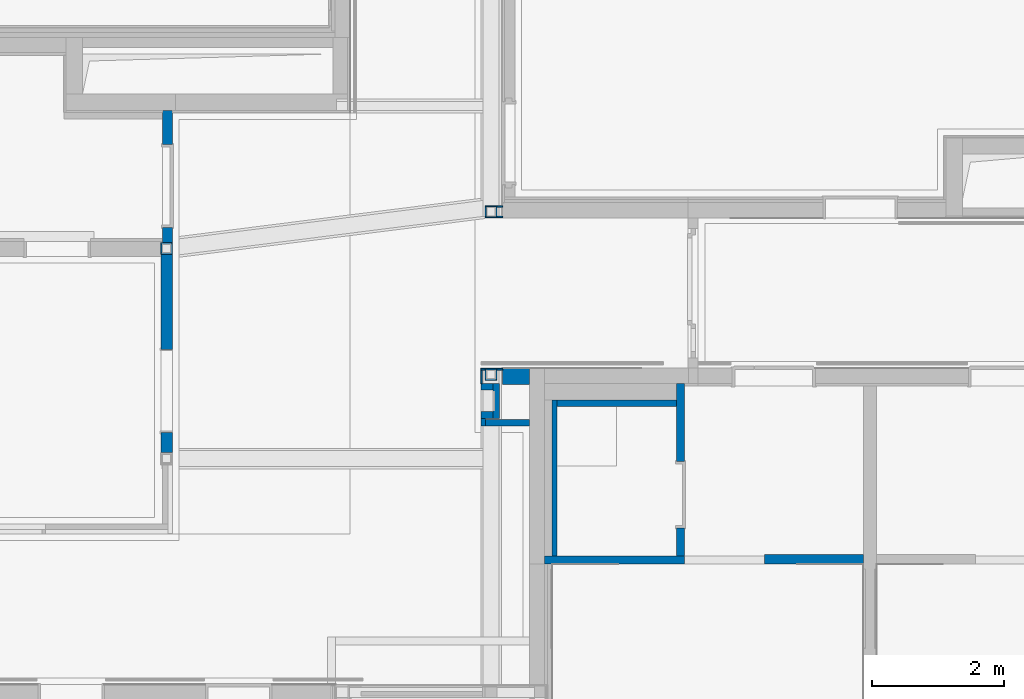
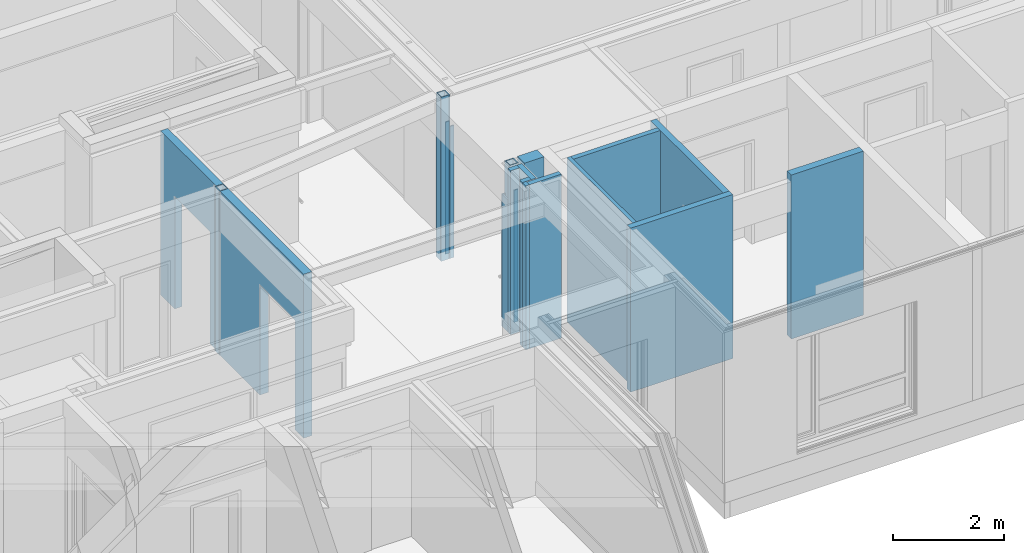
# One storey, part 44 of 207: 30 walls, 3 openings.
"""IFC4 building model written with IfcOpenShell, lengths in metres."""

from ifc_helpers import new_model, entity, si_unit, converted_unit, derived_unit, frame, frame_2d, origin, origin_with_axes, place, context, subcontext, project, spatial, polyline, rectangle, outline, extrude, material, element, save


model = new_model("IFC4")

# Units and contexts
model_context = context("Model", 3, precision=1e-05, world=origin())
body_context = subcontext(model_context, "Body", "Model", "MODEL_VIEW")
ifc_project = project(units=[si_unit("LENGTHUNIT", "METRE"), si_unit("AREAUNIT", "SQUARE_METRE"), si_unit("VOLUMEUNIT", "CUBIC_METRE"), si_unit("MASSUNIT", "GRAM", prefix="KILO"), converted_unit("PLANEANGLEUNIT", "DEGREE", entity("IfcPlaneAngleMeasure", 0.0174532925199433), si_unit("PLANEANGLEUNIT", "RADIAN"), dimensions=[0, 0, 0, 0, 0, 0, 0]), derived_unit("THERMALTRANSMITTANCEUNIT", [(si_unit("POWERUNIT", "WATT"), 1), (si_unit("THERMODYNAMICTEMPERATUREUNIT", "KELVIN"), -1), (si_unit("LENGTHUNIT", "METRE"), -2)]), derived_unit("VOLUMETRICFLOWRATEUNIT", [(si_unit("LENGTHUNIT", "METRE"), 3), (converted_unit("TIMEUNIT", "hour", entity("IfcTimeMeasure", 3600.0), si_unit("TIMEUNIT", "SECOND"), dimensions=[0, 0, 1, 0, 0, 0, 0]), -1), (si_unit("LENGTHUNIT", "METRE"), -1)])], contexts=[model_context])

# Site, building, storey
site_placement = place(None, origin())
site = spatial("IfcSite", under=ifc_project, at=site_placement, Name="Psychiatrie Neubau Wunstorf", CompositionType="ELEMENT")
building_placement = place(site_placement, origin())
building = spatial("IfcBuilding", under=site, at=building_placement, Name="Neubau H2 Stationsgebäude", CompositionType="ELEMENT")
storey_placement = place(building_placement, frame((0.0, 0.0, -0.2)))
storey = spatial("IfcBuildingStorey", under=building, at=storey_placement, Name="H2 Ebene 0", CompositionType="ELEMENT", Elevation=-0.2)

# Walls
ifc_material_1 = material(Name="WI-HW 60")
wall_1_placement = place(storey_placement, frame((70.8355, 5.3325, 0.0), z_axis=(0.0, 0.0, 1.0), x_axis=(-1.0, 0.0, 0.0)))
element("IfcWall", 1, at=wall_1_placement, inside=storey, material=ifc_material_1, context=body_context, shape_type="SweptSolid", body=[
    extrude(rectangle(XDim=0.405499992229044, YDim=0.25, at=frame_2d((0.202749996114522, 0.125), x_axis=(1.0, 0.0))), origin_with_axes(), (0.0, 0.0, 1.0), 3.6),
])
ifc_material_2 = material(Name="WI-LB")
wall_2_placement = place(storey_placement, frame((75.9, 2.5105, 0.0), z_axis=(0.0, 0.0, 1.0), x_axis=(-1.0, 0.0, 0.0)))
element("IfcWall", 2, at=wall_2_placement, inside=storey, material=ifc_material_2, context=body_context, shape_type="SweptSolid", body=[
    extrude(rectangle(XDim=1.5, YDim=0.15, at=frame_2d((0.75, 0.075), x_axis=(1.0, 0.0))), origin_with_axes(), (0.0, 0.0, 1.0), 3.6),
])

# Wall, opening
ifc_material_3 = material(Name="WI-LB")
wall_3_placement = place(storey_placement, frame((65.4249963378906, 4.04999694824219, 0.0), z_axis=(0.0, 0.0, 1.0), x_axis=(0.0, 1.0, 0.0)))
wall_3 = element("IfcWall", 3, at=wall_3_placement, inside=storey, material=ifc_material_3, context=body_context, shape_type="SweptSolid", body=[
    extrude(rectangle(XDim=3.00650268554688, YDim=0.175, at=frame_2d((1.50325134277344, 0.0875), x_axis=(1.0, 0.0))), origin_with_axes(), (0.0, 0.0, 1.0), 3.6),
])
opening_1_placement = place(wall_3_placement, frame((0.307502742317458, 0.0, 0.0), z_axis=(0.0, 1.0, 0.0), x_axis=(0.0, 0.0, 1.0)))
element("IfcOpeningElement", 4, at=opening_1_placement, cuts=wall_3, Name="Türöffnung", ObjectType="Opening", context=body_context, shape_type="SweptSolid", body=[
    extrude(outline(polyline([(2.41, 1.26), (2.41, 0.0), (0.0, 0.0), (0.0, 1.26), (2.41, 1.26)])), origin_with_axes(), (0.0, 0.0, 1.0), 0.175),
])

ifc_material_4 = material(Name="WI-LB")
wall_4_placement = place(storey_placement, frame((65.4249963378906, 7.23649963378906, 0.0), z_axis=(0.0, 0.0, 1.0), x_axis=(0.0, 1.0, 0.0)))
wall_4 = element("IfcWall", 5, at=wall_4_placement, inside=storey, material=ifc_material_4, context=body_context, shape_type="SweptSolid", body=[
    extrude(rectangle(XDim=1.9985000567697, YDim=0.15, at=frame_2d((0.999250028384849, 0.075), x_axis=(1.0, 0.0))), origin_with_axes(), (0.0, 0.0, 1.0), 3.6),
])
opening_2_placement = place(wall_4_placement, frame((1.4851960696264, 0.15, 0.0), z_axis=(0.0, -1.0, 0.0), x_axis=(0.0, 0.0, 1.0)))
element("IfcOpeningElement", 6, at=opening_2_placement, cuts=wall_4, Name="Türöffnung", ObjectType="Opening", context=body_context, shape_type="SweptSolid", body=[
    extrude(outline(polyline([(2.46, 1.26), (2.46, 0.0), (0.0, 0.0), (0.0, 1.26), (2.46, 1.26)])), origin_with_axes(), (0.0, 0.0, 1.0), 0.15),
])

ifc_material_5 = material(Name="WI-LB")
wall_5_placement = place(storey_placement, frame((73.1875, 2.4855, 0.0), z_axis=(0.0, 0.0, 1.0), x_axis=(0.0, 1.0, 0.0)))
wall_5 = element("IfcWall", 7, at=wall_5_placement, inside=storey, material=ifc_material_5, context=body_context, shape_type="SweptSolid", body=[
    extrude(rectangle(XDim=2.615, YDim=0.125, at=frame_2d((1.3075, 0.0625), x_axis=(1.0, 0.0))), origin_with_axes(), (0.0, 0.0, 1.0), 3.6),
])
opening_3_placement = place(wall_5_placement, frame((1.435, 0.125, 0.0), z_axis=(0.0, -1.0, 0.0), x_axis=(0.0, 0.0, 1.0)))
element("IfcOpeningElement", 8, at=opening_3_placement, cuts=wall_5, Name="Türöffnung", ObjectType="Opening", context=body_context, shape_type="SweptSolid", body=[
    extrude(outline(polyline([(2.46, 1.01), (2.46, 0.0), (0.0, 0.0), (0.0, 1.01), (2.46, 1.01)])), origin_with_axes(), (0.0, 0.0, 1.0), 0.125),
])

# Walls
ifc_material_6 = material(Name="WI-VS")
wall_6_placement = place(storey_placement, frame((71.1825, 4.8505, 0.0), z_axis=(0.0, 0.0, 1.0), x_axis=(0.0, -1.0, 0.0)))
element("IfcWall", 9, at=wall_6_placement, inside=storey, material=ifc_material_6, context=body_context, shape_type="SweptSolid", body=[
    extrude(rectangle(XDim=2.365, YDim=0.075, at=frame_2d((1.1825, 0.0375), x_axis=(1.0, 0.0))), origin_with_axes(), (0.0, 0.0, 1.0), 3.6),
])
ifc_material_7 = material(Name="WI-LB")
wall_7_placement = place(storey_placement, frame((73.1875, 2.4855, 0.0), z_axis=(0.0, 0.0, 1.0), x_axis=(-1.0, 0.0, 0.0)))
element("IfcWall", 10, at=wall_7_placement, inside=storey, material=ifc_material_7, context=body_context, shape_type="SweptSolid", body=[
    extrude(rectangle(XDim=2.12, YDim=0.125, at=frame_2d((1.06, 0.0625), x_axis=(1.0, 0.0))), origin_with_axes(), (0.0, 0.0, 1.0), 3.6),
])
ifc_material_8 = material(Name="WI-LB")
wall_8_placement = place(storey_placement, frame((70.3449950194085, 5.3025, 0.0)))
element("IfcWall", 11, at=wall_8_placement, inside=storey, material=ifc_material_8, context=body_context, shape_type="SweptSolid", body=[
    extrude(rectangle(XDim=0.0849950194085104, YDim=0.025, at=frame_2d((0.0424975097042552, 0.0125), x_axis=(1.0, 0.0))), origin_with_axes(), (0.0, 0.0, 1.0), 2.9),
])
ifc_material_9 = material(Name="WI-LB")
wall_9_placement = place(storey_placement, frame((70.285490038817, 5.09750000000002, 0.0), z_axis=(0.0, 0.0, 1.0), x_axis=(-1.0, 0.0, 0.0)))
element("IfcWall", 12, at=wall_9_placement, inside=storey, material=ifc_material_9, context=body_context, shape_type="SweptSolid", body=[
    extrude(rectangle(XDim=0.186495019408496, YDim=0.1, at=frame_2d((0.0932475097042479, 0.05), x_axis=(1.0, 0.0))), origin_with_axes(), (0.0, 0.0, 1.0), 3.6),
])
ifc_material_10 = material(Name="WI-LB")
wall_10_placement = place(storey_placement, frame((70.1239950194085, 5.09750000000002, 0.0), z_axis=(0.0, 0.0, 1.0), x_axis=(0.0, 1.0, 0.0)))
element("IfcWall", 13, at=wall_10_placement, inside=storey, material=ifc_material_10, context=body_context, shape_type="SweptSolid", body=[
    extrude(rectangle(XDim=0.204999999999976, YDim=0.025, at=frame_2d((0.102499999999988, 0.0125), x_axis=(1.0, 0.0))), origin_with_axes(), (0.0, 0.0, 1.0), 2.9),
])
ifc_material_11 = material(Name="WI-LB")
wall_11_placement = place(storey_placement, frame((70.0989950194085, 5.3025, 0.0)))
element("IfcWall", 14, at=wall_11_placement, inside=storey, material=ifc_material_11, context=body_context, shape_type="SweptSolid", body=[
    extrude(rectangle(XDim=0.0659999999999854, YDim=0.025, at=frame_2d((0.0329999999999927, 0.0125), x_axis=(1.0, 0.0))), origin_with_axes(), (0.0, 0.0, 1.0), 2.9),
])
ifc_material_12 = material(Name="WI-LB")
wall_12_placement = place(storey_placement, frame((70.0989950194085, 4.57250000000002, 0.0), z_axis=(0.0, 0.0, 1.0), x_axis=(0.0, -1.0, 0.0)))
element("IfcWall", 15, at=wall_12_placement, inside=storey, material=ifc_material_12, context=body_context, shape_type="SweptSolid", body=[
    extrude(rectangle(XDim=0.12, YDim=0.075, at=frame_2d((0.06, 0.0375), x_axis=(1.0, 0.0))), origin_with_axes(), (0.0, 0.0, 1.0), 3.6),
])
ifc_material_13 = material(Name="WI-LB")
wall_13_placement = place(storey_placement, frame((70.385490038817, 4.57250000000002, 0.0), z_axis=(0.0, 0.0, 1.0), x_axis=(0.0, 1.0, 0.0)))
element("IfcWall", 16, at=wall_13_placement, inside=storey, material=ifc_material_13, context=body_context, shape_type="SweptSolid", body=[
    extrude(rectangle(XDim=0.525, YDim=0.1, at=frame_2d((0.2625, 0.05), x_axis=(1.0, 0.0))), origin_with_axes(), (0.0, 0.0, 1.0), 3.6),
])
ifc_material_14 = material(Name="WI-LB")
wall_14_placement = place(storey_placement, frame((70.285490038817, 4.67250000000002, 0.0), z_axis=(0.0, 0.0, 1.0), x_axis=(-1.0, 0.0, 0.0)))
element("IfcWall", 17, at=wall_14_placement, inside=storey, material=ifc_material_14, context=body_context, shape_type="SweptSolid", body=[
    extrude(rectangle(XDim=0.186495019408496, YDim=0.1, at=frame_2d((0.0932475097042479, 0.05), x_axis=(1.0, 0.0))), origin_with_axes(), (0.0, 0.0, 1.0), 3.6),
])
ifc_material_15 = material(Name="WI-LB")
wall_15_placement = place(storey_placement, frame((70.835490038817, 4.55250000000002, 0.0), z_axis=(0.0, 0.0, 1.0), x_axis=(-1.0, 0.0, 0.0)))
element("IfcWall", 18, at=wall_15_placement, inside=storey, material=ifc_material_15, context=body_context, shape_type="SweptSolid", body=[
    extrude(rectangle(XDim=0.661495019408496, YDim=0.1, at=frame_2d((0.330747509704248, 0.05), x_axis=(1.0, 0.0))), origin_with_axes(), (0.0, 0.0, 1.0), 3.6),
])
ifc_material_16 = material(Name="WI-LB")
wall_16_placement = place(storey_placement, frame((70.430000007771, 7.63749981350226, 0.0), z_axis=(0.0, 0.0, 1.0), x_axis=(-1.0, 0.0, 0.0)))
element("IfcWall", 19, at=wall_16_placement, inside=storey, material=ifc_material_16, context=body_context, shape_type="SweptSolid", body=[
    extrude(rectangle(XDim=0.0850049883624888, YDim=0.025, at=frame_2d((0.0425024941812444, 0.0125), x_axis=(1.0, 0.0))), origin_with_axes(), (0.0, 0.0, 1.0), 2.9),
])
ifc_material_17 = material(Name="WI-LB")
wall_17_placement = place(storey_placement, frame((70.3449950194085, 7.76749981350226, 0.0)))
element("IfcWall", 20, at=wall_17_placement, inside=storey, material=ifc_material_17, context=body_context, shape_type="SweptSolid", body=[
    extrude(rectangle(XDim=0.0850049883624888, YDim=0.025, at=frame_2d((0.0425024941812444, 0.0125), x_axis=(1.0, 0.0))), origin_with_axes(), (0.0, 0.0, 1.0), 2.9),
])
ifc_material_18 = material(Name="WI-RIR")
wall_18_placement = place(storey_placement, frame((65.2449963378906, 7.21649963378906, 0.0)))
element("IfcWall", 21, at=wall_18_placement, inside=storey, material=ifc_material_18, context=body_context, shape_type="SweptSolid", body=[
    extrude(rectangle(XDim=0.18, YDim=0.02, at=frame_2d((0.09, 0.01), x_axis=(1.0, 0.0))), origin_with_axes(), (0.0, 0.0, 1.0), 3.6),
])
ifc_material_19 = material(Name="WI-RIR")
wall_19_placement = place(storey_placement, frame((65.4049963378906, 7.21649963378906, 0.0), z_axis=(0.0, 0.0, 1.0), x_axis=(0.0, -1.0, 0.0)))
element("IfcWall", 22, at=wall_19_placement, inside=storey, material=ifc_material_19, context=body_context, shape_type="SweptSolid", body=[
    extrude(rectangle(XDim=0.16, YDim=0.02, at=frame_2d((0.08, 0.01), x_axis=(1.0, 0.0))), origin_with_axes(), (0.0, 0.0, 1.0), 3.6),
])
ifc_material_20 = material(Name="WI-RIR")
wall_20_placement = place(storey_placement, frame((65.2649963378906, 7.07649963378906, 0.0), z_axis=(0.0, 0.0, 1.0), x_axis=(0.0, 1.0, 0.0)))
element("IfcWall", 23, at=wall_20_placement, inside=storey, material=ifc_material_20, context=body_context, shape_type="SweptSolid", body=[
    extrude(rectangle(XDim=0.14, YDim=0.02, at=frame_2d((0.07, 0.01), x_axis=(1.0, 0.0))), origin_with_axes(), (0.0, 0.0, 1.0), 3.6),
])
ifc_material_21 = material(Name="WI-RIR")
wall_21_placement = place(storey_placement, frame((65.4049963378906, 7.07649963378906, 0.0), z_axis=(0.0, 0.0, 1.0), x_axis=(-1.0, 0.0, 0.0)))
element("IfcWall", 24, at=wall_21_placement, inside=storey, material=ifc_material_21, context=body_context, shape_type="SweptSolid", body=[
    extrude(rectangle(XDim=0.16, YDim=0.02, at=frame_2d((0.08, 0.01), x_axis=(1.0, 0.0))), origin_with_axes(), (0.0, 0.0, 1.0), 3.6),
])
ifc_material_22 = material(Name="BS Beplankung")
wall_22_placement = place(storey_placement, frame((70.1849950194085, 5.3075, 0.0)))
element("IfcWall", 25, at=wall_22_placement, inside=storey, material=ifc_material_22, context=body_context, shape_type="SweptSolid", body=[
    extrude(rectangle(XDim=0.14, YDim=0.02, at=frame_2d((0.07, 0.01), x_axis=(1.0, 0.0))), origin_with_axes(), (0.0, 0.0, 1.0), 3.6),
])
ifc_material_23 = material(Name="BS Beplankung")
wall_23_placement = place(storey_placement, frame((70.3249950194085, 5.3275, 0.0), z_axis=(0.0, 0.0, 1.0), x_axis=(0.0, -1.0, 0.0)))
element("IfcWall", 26, at=wall_23_placement, inside=storey, material=ifc_material_23, context=body_context, shape_type="SweptSolid", body=[
    extrude(rectangle(XDim=0.18, YDim=0.02, at=frame_2d((0.09, 0.01), x_axis=(1.0, 0.0))), origin_with_axes(), (0.0, 0.0, 1.0), 3.6),
])
ifc_material_24 = material(Name="BS Beplankung")
wall_24_placement = place(storey_placement, frame((70.1849950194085, 5.1675, 0.0), z_axis=(0.0, 0.0, 1.0), x_axis=(0.0, 1.0, 0.0)))
element("IfcWall", 27, at=wall_24_placement, inside=storey, material=ifc_material_24, context=body_context, shape_type="SweptSolid", body=[
    extrude(rectangle(XDim=0.16, YDim=0.02, at=frame_2d((0.08, 0.01), x_axis=(1.0, 0.0))), origin_with_axes(), (0.0, 0.0, 1.0), 3.6),
])
ifc_material_25 = material(Name="BS Beplankung")
wall_25_placement = place(storey_placement, frame((70.1649950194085, 7.77249981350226, 0.0)))
element("IfcWall", 28, at=wall_25_placement, inside=storey, material=ifc_material_25, context=body_context, shape_type="SweptSolid", body=[
    extrude(rectangle(XDim=0.18, YDim=0.02, at=frame_2d((0.09, 0.01), x_axis=(1.0, 0.0))), origin_with_axes(), (0.0, 0.0, 1.0), 3.6),
])
ifc_material_26 = material(Name="BS Beplankung")
wall_26_placement = place(storey_placement, frame((70.3249950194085, 7.63249981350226, 0.0), z_axis=(0.0, 0.0, 1.0), x_axis=(-1.0, 0.0, 0.0)))
element("IfcWall", 29, at=wall_26_placement, inside=storey, material=ifc_material_26, context=body_context, shape_type="SweptSolid", body=[
    extrude(rectangle(XDim=0.16, YDim=0.02, at=frame_2d((0.08, 0.01), x_axis=(1.0, 0.0))), origin_with_axes(), (0.0, 0.0, 1.0), 3.6),
])
ifc_material_27 = material(Name="BS Beplankung")
wall_27_placement = place(storey_placement, frame((70.3249950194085, 7.77249981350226, 0.0), z_axis=(0.0, 0.0, 1.0), x_axis=(0.0, -1.0, 0.0)))
element("IfcWall", 30, at=wall_27_placement, inside=storey, material=ifc_material_27, context=body_context, shape_type="SweptSolid", body=[
    extrude(rectangle(XDim=0.16, YDim=0.02, at=frame_2d((0.08, 0.01), x_axis=(1.0, 0.0))), origin_with_axes(), (0.0, 0.0, 1.0), 3.6),
])
ifc_material_28 = material(Name="WI-VS")
wall_28_placement = place(storey_placement, frame((73.0625, 4.8505, 0.0), z_axis=(0.0, 0.0, 1.0), x_axis=(-1.0, 0.0, 0.0)))
element("IfcWall", 31, at=wall_28_placement, inside=storey, material=ifc_material_28, context=body_context, shape_type="SweptSolid", body=[
    extrude(rectangle(XDim=1.805, YDim=0.1, at=frame_2d((0.9025, 0.05), x_axis=(1.0, 0.0))), origin_with_axes(), (0.0, 0.0, 1.0), 3.6),
])
ifc_material_29 = material(Name="BS Beplankung")
wall_29_placement = place(storey_placement, frame((70.1849950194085, 7.63249981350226, 0.0), z_axis=(0.0, 0.0, 1.0), x_axis=(0.0, 1.0, 0.0)))
element("IfcWall", 32, at=wall_29_placement, inside=storey, material=ifc_material_29, context=body_context, shape_type="SweptSolid", body=[
    extrude(rectangle(XDim=0.14, YDim=0.02, at=frame_2d((0.07, 0.01), x_axis=(1.0, 0.0))), origin_with_axes(), (0.0, 0.0, 1.0), 3.6),
])
ifc_material_30 = material(Name="BS Beplankung")
wall_30_placement = place(storey_placement, frame((70.3249950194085, 5.1675, 0.0), z_axis=(0.0, 0.0, 1.0), x_axis=(-1.0, 0.0, 0.0)))
element("IfcWall", 33, at=wall_30_placement, inside=storey, material=ifc_material_30, context=body_context, shape_type="SweptSolid", body=[
    extrude(rectangle(XDim=0.16, YDim=0.02, at=frame_2d((0.08, 0.01), x_axis=(1.0, 0.0))), origin_with_axes(), (0.0, 0.0, 1.0), 3.6),
])

save(model, "model.ifc")
